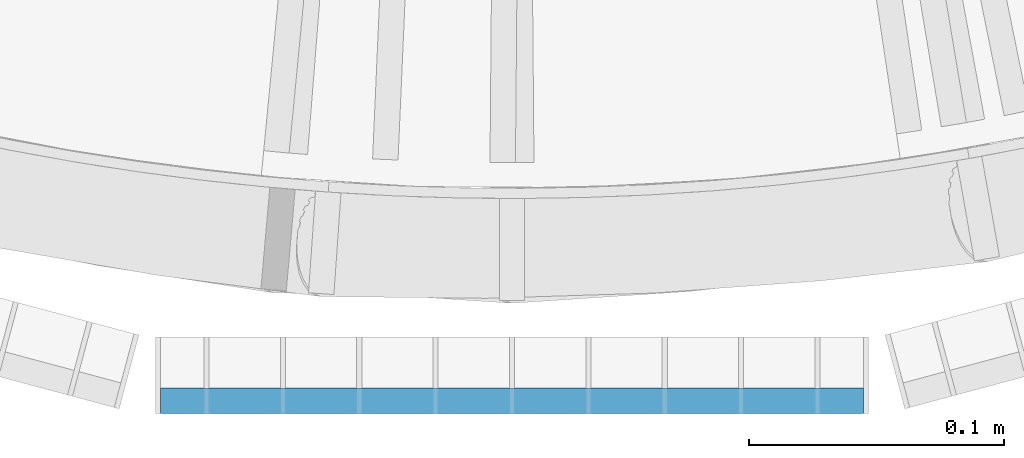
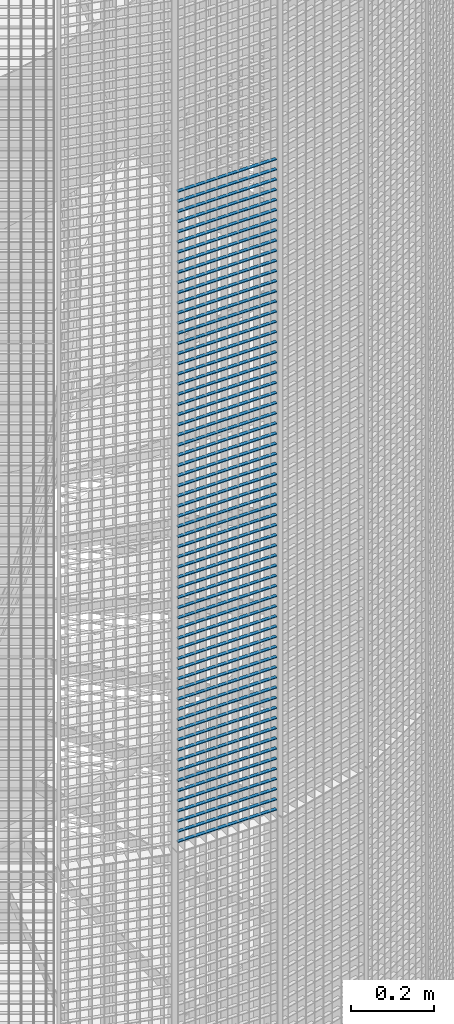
# One storey, part 157 of 1183: 65 beams, 1 element without a shape of its own.
"""IFC2X3 building model written with IfcOpenShell, lengths in millimetres."""

from ifc_helpers import new_model, si_unit, frame, origin_with_axes, origin_2d_with_axis, place, context, subcontext, project, spatial, rectangle, extrude, material, type_object, element, aggregate, save


model = new_model("IFC2X3")

# Units and contexts
model_context = context("Model", 3, precision=1e-05, world=origin_with_axes())
body_context = subcontext(model_context, "Body", "Model", "MODEL_VIEW")
ifc_project = project(units=[si_unit("LENGTHUNIT", "METRE", prefix="MILLI"), si_unit("AREAUNIT", "SQUARE_METRE"), si_unit("VOLUMEUNIT", "CUBIC_METRE"), si_unit("MASSUNIT", "GRAM", prefix="KILO"), si_unit("TIMEUNIT", "SECOND"), si_unit("PLANEANGLEUNIT", "RADIAN"), si_unit("SOLIDANGLEUNIT", "STERADIAN"), si_unit("THERMODYNAMICTEMPERATUREUNIT", "DEGREE_CELSIUS"), si_unit("LUMINOUSINTENSITYUNIT", "LUMEN")], contexts=[model_context])

# Site, building, storey
site_placement = place(None, origin_with_axes())
site = spatial("IfcSite", under=ifc_project, at=site_placement, Name="Undefined", CompositionType="ELEMENT")
building_placement = place(site_placement, origin_with_axes())
building = spatial("IfcBuilding", under=site, at=building_placement, Name="Undefined", CompositionType="ELEMENT")
storey_placement = place(building_placement, origin_with_axes())
storey = spatial("IfcBuildingStorey", under=building, at=storey_placement, Name="Undefined", CompositionType="ELEMENT", Elevation=0.0)

# Assembly, beams
assembly_placement = place(storey_placement, origin_with_axes())
assembly = element("IfcElementAssembly", 1, at=assembly_placement, inside=storey, Name="BORDURE", AssemblyPlace="NOTDEFINED", PredefinedType="NOTDEFINED")
ifc_material = material(Name="STEEL/S235JR")
beam_type = type_object("IfcBeamType", Name="PL2*10", PredefinedType="NOTDEFINED")
beam_1_placement = place(assembly_placement, frame((-137.996003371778, -1113.47999999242, 7950.0), z_axis=(0.0, -1.0, 0.0), x_axis=(1.0, 0.0, 0.0)))
beam_1 = element("IfcBeam", 2, at=beam_1_placement, type_object=beam_type, material=ifc_material, Name="ENTRETOISE", context=body_context, shape_type="SweptSolid", body=[
    extrude(rectangle(XDim=2.0, YDim=10.0, at=origin_2d_with_axis()), frame((275.999999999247, 9.09494701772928e-13, 1.53210777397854e-14), z_axis=(-1.0, 0.0, 0.0), x_axis=(0.0, -1.0, 0.0)), (0.0, 0.0, 1.0), 276.0),
])
beam_2_placement = place(assembly_placement, frame((-137.996003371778, -1113.47999999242, 7920.0), z_axis=(0.0, -1.0, 0.0), x_axis=(1.0, 0.0, 0.0)))
beam_2 = element("IfcBeam", 3, at=beam_2_placement, type_object=beam_type, material=ifc_material, Name="ENTRETOISE", context=body_context, shape_type="SweptSolid", body=[
    extrude(rectangle(XDim=2.0, YDim=10.0, at=origin_2d_with_axis()), frame((275.999999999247, 9.09494701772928e-13, 1.53210777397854e-14), z_axis=(-1.0, 0.0, 0.0), x_axis=(0.0, -1.0, 0.0)), (0.0, 0.0, 1.0), 276.0),
])
beam_3_placement = place(assembly_placement, frame((-137.996003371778, -1113.47999999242, 7890.0), z_axis=(0.0, -1.0, 0.0), x_axis=(1.0, 0.0, 0.0)))
beam_3 = element("IfcBeam", 4, at=beam_3_placement, type_object=beam_type, material=ifc_material, Name="ENTRETOISE", context=body_context, shape_type="SweptSolid", body=[
    extrude(rectangle(XDim=2.0, YDim=10.0, at=origin_2d_with_axis()), frame((275.999999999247, 9.09494701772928e-13, 1.53210777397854e-14), z_axis=(-1.0, 0.0, 0.0), x_axis=(0.0, -1.0, 0.0)), (0.0, 0.0, 1.0), 276.0),
])
beam_4_placement = place(assembly_placement, frame((-137.996003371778, -1113.47999999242, 7860.0), z_axis=(0.0, -1.0, 0.0), x_axis=(1.0, 0.0, 0.0)))
beam_4 = element("IfcBeam", 5, at=beam_4_placement, type_object=beam_type, material=ifc_material, Name="ENTRETOISE", context=body_context, shape_type="SweptSolid", body=[
    extrude(rectangle(XDim=2.0, YDim=10.0, at=origin_2d_with_axis()), frame((275.999999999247, 9.09494701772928e-13, 1.53210777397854e-14), z_axis=(-1.0, 0.0, 0.0), x_axis=(0.0, -1.0, 0.0)), (0.0, 0.0, 1.0), 276.0),
])
beam_5_placement = place(assembly_placement, frame((-137.996003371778, -1113.47999999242, 7830.0), z_axis=(0.0, -1.0, 0.0), x_axis=(1.0, 0.0, 0.0)))
beam_5 = element("IfcBeam", 6, at=beam_5_placement, type_object=beam_type, material=ifc_material, Name="ENTRETOISE", context=body_context, shape_type="SweptSolid", body=[
    extrude(rectangle(XDim=2.0, YDim=10.0, at=origin_2d_with_axis()), frame((275.999999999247, 9.09494701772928e-13, 1.53210777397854e-14), z_axis=(-1.0, 0.0, 0.0), x_axis=(0.0, -1.0, 0.0)), (0.0, 0.0, 1.0), 276.0),
])
beam_6_placement = place(assembly_placement, frame((-137.996003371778, -1113.47999999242, 7800.0), z_axis=(0.0, -1.0, 0.0), x_axis=(1.0, 0.0, 0.0)))
beam_6 = element("IfcBeam", 7, at=beam_6_placement, type_object=beam_type, material=ifc_material, Name="ENTRETOISE", context=body_context, shape_type="SweptSolid", body=[
    extrude(rectangle(XDim=2.0, YDim=10.0, at=origin_2d_with_axis()), frame((275.999999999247, 9.09494701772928e-13, 1.53210777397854e-14), z_axis=(-1.0, 0.0, 0.0), x_axis=(0.0, -1.0, 0.0)), (0.0, 0.0, 1.0), 276.0),
])
beam_7_placement = place(assembly_placement, frame((-137.996003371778, -1113.47999999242, 7770.0), z_axis=(0.0, -1.0, 0.0), x_axis=(1.0, 0.0, 0.0)))
beam_7 = element("IfcBeam", 8, at=beam_7_placement, type_object=beam_type, material=ifc_material, Name="ENTRETOISE", context=body_context, shape_type="SweptSolid", body=[
    extrude(rectangle(XDim=2.0, YDim=10.0, at=origin_2d_with_axis()), frame((275.999999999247, 9.09494701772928e-13, 1.53210777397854e-14), z_axis=(-1.0, 0.0, 0.0), x_axis=(0.0, -1.0, 0.0)), (0.0, 0.0, 1.0), 276.0),
])
beam_8_placement = place(assembly_placement, frame((-137.996003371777, -1113.47999999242, 7740.0), z_axis=(0.0, -1.0, 0.0), x_axis=(1.0, 0.0, 0.0)))
beam_8 = element("IfcBeam", 9, at=beam_8_placement, type_object=beam_type, material=ifc_material, Name="ENTRETOISE", context=body_context, shape_type="SweptSolid", body=[
    extrude(rectangle(XDim=2.0, YDim=10.0, at=origin_2d_with_axis()), frame((275.999999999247, 9.09494701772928e-13, 1.53210777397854e-14), z_axis=(-1.0, 0.0, 0.0), x_axis=(0.0, -1.0, 0.0)), (0.0, 0.0, 1.0), 276.0),
])
beam_9_placement = place(assembly_placement, frame((-137.996003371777, -1113.47999999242, 7710.0), z_axis=(0.0, -1.0, 0.0), x_axis=(1.0, 0.0, 0.0)))
beam_9 = element("IfcBeam", 10, at=beam_9_placement, type_object=beam_type, material=ifc_material, Name="ENTRETOISE", context=body_context, shape_type="SweptSolid", body=[
    extrude(rectangle(XDim=2.0, YDim=10.0, at=origin_2d_with_axis()), frame((275.999999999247, 9.09494701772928e-13, 1.53210777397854e-14), z_axis=(-1.0, 0.0, 0.0), x_axis=(0.0, -1.0, 0.0)), (0.0, 0.0, 1.0), 276.0),
])
beam_10_placement = place(assembly_placement, frame((-137.996003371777, -1113.47999999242, 7680.0), z_axis=(0.0, -1.0, 0.0), x_axis=(1.0, 0.0, 0.0)))
beam_10 = element("IfcBeam", 11, at=beam_10_placement, type_object=beam_type, material=ifc_material, Name="ENTRETOISE", context=body_context, shape_type="SweptSolid", body=[
    extrude(rectangle(XDim=2.0, YDim=10.0, at=origin_2d_with_axis()), frame((275.999999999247, 9.09494701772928e-13, 1.53210777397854e-14), z_axis=(-1.0, 0.0, 0.0), x_axis=(0.0, -1.0, 0.0)), (0.0, 0.0, 1.0), 276.0),
])
beam_11_placement = place(assembly_placement, frame((-137.996003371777, -1113.47999999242, 7650.0), z_axis=(0.0, -1.0, 0.0), x_axis=(1.0, 0.0, 0.0)))
beam_11 = element("IfcBeam", 12, at=beam_11_placement, type_object=beam_type, material=ifc_material, Name="ENTRETOISE", context=body_context, shape_type="SweptSolid", body=[
    extrude(rectangle(XDim=2.0, YDim=10.0, at=origin_2d_with_axis()), frame((275.999999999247, 9.09494701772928e-13, 1.53210777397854e-14), z_axis=(-1.0, 0.0, 0.0), x_axis=(0.0, -1.0, 0.0)), (0.0, 0.0, 1.0), 276.0),
])
beam_12_placement = place(assembly_placement, frame((-137.996003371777, -1113.47999999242, 7620.0), z_axis=(0.0, -1.0, 0.0), x_axis=(1.0, 0.0, 0.0)))
beam_12 = element("IfcBeam", 13, at=beam_12_placement, type_object=beam_type, material=ifc_material, Name="ENTRETOISE", context=body_context, shape_type="SweptSolid", body=[
    extrude(rectangle(XDim=2.0, YDim=10.0, at=origin_2d_with_axis()), frame((275.999999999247, 9.09494701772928e-13, 1.53210777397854e-14), z_axis=(-1.0, 0.0, 0.0), x_axis=(0.0, -1.0, 0.0)), (0.0, 0.0, 1.0), 276.0),
])
beam_13_placement = place(assembly_placement, frame((-137.996003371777, -1113.47999999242, 7590.0), z_axis=(0.0, -1.0, 0.0), x_axis=(1.0, 0.0, 0.0)))
beam_13 = element("IfcBeam", 14, at=beam_13_placement, type_object=beam_type, material=ifc_material, Name="ENTRETOISE", context=body_context, shape_type="SweptSolid", body=[
    extrude(rectangle(XDim=2.0, YDim=10.0, at=origin_2d_with_axis()), frame((275.999999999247, 9.09494701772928e-13, 1.53210777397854e-14), z_axis=(-1.0, 0.0, 0.0), x_axis=(0.0, -1.0, 0.0)), (0.0, 0.0, 1.0), 276.0),
])
beam_14_placement = place(assembly_placement, frame((-137.996003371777, -1113.47999999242, 7560.0), z_axis=(0.0, -1.0, 0.0), x_axis=(1.0, 0.0, 0.0)))
beam_14 = element("IfcBeam", 15, at=beam_14_placement, type_object=beam_type, material=ifc_material, Name="ENTRETOISE", context=body_context, shape_type="SweptSolid", body=[
    extrude(rectangle(XDim=2.0, YDim=10.0, at=origin_2d_with_axis()), frame((275.999999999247, 9.09494701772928e-13, 1.53210777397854e-14), z_axis=(-1.0, 0.0, 0.0), x_axis=(0.0, -1.0, 0.0)), (0.0, 0.0, 1.0), 276.0),
])
beam_15_placement = place(assembly_placement, frame((-137.996003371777, -1113.47999999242, 7530.0), z_axis=(0.0, -1.0, 0.0), x_axis=(1.0, 0.0, 0.0)))
beam_15 = element("IfcBeam", 16, at=beam_15_placement, type_object=beam_type, material=ifc_material, Name="ENTRETOISE", context=body_context, shape_type="SweptSolid", body=[
    extrude(rectangle(XDim=2.0, YDim=10.0, at=origin_2d_with_axis()), frame((275.999999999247, 9.09494701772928e-13, 1.53210777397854e-14), z_axis=(-1.0, 0.0, 0.0), x_axis=(0.0, -1.0, 0.0)), (0.0, 0.0, 1.0), 276.0),
])
beam_16_placement = place(assembly_placement, frame((-137.996003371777, -1113.47999999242, 7500.0), z_axis=(0.0, -1.0, 0.0), x_axis=(1.0, 0.0, 0.0)))
beam_16 = element("IfcBeam", 17, at=beam_16_placement, type_object=beam_type, material=ifc_material, Name="ENTRETOISE", context=body_context, shape_type="SweptSolid", body=[
    extrude(rectangle(XDim=2.0, YDim=10.0, at=origin_2d_with_axis()), frame((275.999999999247, 9.09494701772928e-13, 1.53210777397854e-14), z_axis=(-1.0, 0.0, 0.0), x_axis=(0.0, -1.0, 0.0)), (0.0, 0.0, 1.0), 276.0),
])
beam_17_placement = place(assembly_placement, frame((-137.996003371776, -1113.47999999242, 7470.0), z_axis=(0.0, -1.0, 0.0), x_axis=(1.0, 0.0, 0.0)))
beam_17 = element("IfcBeam", 18, at=beam_17_placement, type_object=beam_type, material=ifc_material, Name="ENTRETOISE", context=body_context, shape_type="SweptSolid", body=[
    extrude(rectangle(XDim=2.0, YDim=10.0, at=origin_2d_with_axis()), frame((275.999999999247, 9.09494701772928e-13, 1.53210777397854e-14), z_axis=(-1.0, 0.0, 0.0), x_axis=(0.0, -1.0, 0.0)), (0.0, 0.0, 1.0), 276.0),
])
beam_18_placement = place(assembly_placement, frame((-137.996003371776, -1113.47999999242, 7440.0), z_axis=(0.0, -1.0, 0.0), x_axis=(1.0, 0.0, 0.0)))
beam_18 = element("IfcBeam", 19, at=beam_18_placement, type_object=beam_type, material=ifc_material, Name="ENTRETOISE", context=body_context, shape_type="SweptSolid", body=[
    extrude(rectangle(XDim=2.0, YDim=10.0, at=origin_2d_with_axis()), frame((275.999999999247, 9.09494701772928e-13, 1.53210777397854e-14), z_axis=(-1.0, 0.0, 0.0), x_axis=(0.0, -1.0, 0.0)), (0.0, 0.0, 1.0), 276.0),
])
beam_19_placement = place(assembly_placement, frame((-137.996003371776, -1113.47999999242, 7410.0), z_axis=(0.0, -1.0, 0.0), x_axis=(1.0, 0.0, 0.0)))
beam_19 = element("IfcBeam", 20, at=beam_19_placement, type_object=beam_type, material=ifc_material, Name="ENTRETOISE", context=body_context, shape_type="SweptSolid", body=[
    extrude(rectangle(XDim=2.0, YDim=10.0, at=origin_2d_with_axis()), frame((275.999999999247, 9.09494701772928e-13, 1.53210777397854e-14), z_axis=(-1.0, 0.0, 0.0), x_axis=(0.0, -1.0, 0.0)), (0.0, 0.0, 1.0), 276.0),
])
beam_20_placement = place(assembly_placement, frame((-137.996003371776, -1113.47999999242, 7380.0), z_axis=(0.0, -1.0, 0.0), x_axis=(1.0, 0.0, 0.0)))
beam_20 = element("IfcBeam", 21, at=beam_20_placement, type_object=beam_type, material=ifc_material, Name="ENTRETOISE", context=body_context, shape_type="SweptSolid", body=[
    extrude(rectangle(XDim=2.0, YDim=10.0, at=origin_2d_with_axis()), frame((275.999999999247, 9.09494701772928e-13, 1.53210777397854e-14), z_axis=(-1.0, 0.0, 0.0), x_axis=(0.0, -1.0, 0.0)), (0.0, 0.0, 1.0), 276.0),
])
beam_21_placement = place(assembly_placement, frame((-137.996003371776, -1113.47999999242, 7350.0), z_axis=(0.0, -1.0, 0.0), x_axis=(1.0, 0.0, 0.0)))
beam_21 = element("IfcBeam", 22, at=beam_21_placement, type_object=beam_type, material=ifc_material, Name="ENTRETOISE", context=body_context, shape_type="SweptSolid", body=[
    extrude(rectangle(XDim=2.0, YDim=10.0, at=origin_2d_with_axis()), frame((275.999999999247, 9.09494701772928e-13, 1.53210777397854e-14), z_axis=(-1.0, 0.0, 0.0), x_axis=(0.0, -1.0, 0.0)), (0.0, 0.0, 1.0), 276.0),
])
beam_22_placement = place(assembly_placement, frame((-137.996003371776, -1113.47999999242, 7320.0), z_axis=(0.0, -1.0, 0.0), x_axis=(1.0, 0.0, 0.0)))
beam_22 = element("IfcBeam", 23, at=beam_22_placement, type_object=beam_type, material=ifc_material, Name="ENTRETOISE", context=body_context, shape_type="SweptSolid", body=[
    extrude(rectangle(XDim=2.0, YDim=10.0, at=origin_2d_with_axis()), frame((275.999999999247, 9.09494701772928e-13, 1.53210777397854e-14), z_axis=(-1.0, 0.0, 0.0), x_axis=(0.0, -1.0, 0.0)), (0.0, 0.0, 1.0), 276.0),
])
beam_23_placement = place(assembly_placement, frame((-137.996003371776, -1113.47999999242, 7290.0), z_axis=(0.0, -1.0, 0.0), x_axis=(1.0, 0.0, 0.0)))
beam_23 = element("IfcBeam", 24, at=beam_23_placement, type_object=beam_type, material=ifc_material, Name="ENTRETOISE", context=body_context, shape_type="SweptSolid", body=[
    extrude(rectangle(XDim=2.0, YDim=10.0, at=origin_2d_with_axis()), frame((275.999999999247, 9.09494701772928e-13, 1.53210777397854e-14), z_axis=(-1.0, 0.0, 0.0), x_axis=(0.0, -1.0, 0.0)), (0.0, 0.0, 1.0), 276.0),
])
beam_24_placement = place(assembly_placement, frame((-137.996003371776, -1113.47999999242, 7260.0), z_axis=(0.0, -1.0, 0.0), x_axis=(1.0, 0.0, 0.0)))
beam_24 = element("IfcBeam", 25, at=beam_24_placement, type_object=beam_type, material=ifc_material, Name="ENTRETOISE", context=body_context, shape_type="SweptSolid", body=[
    extrude(rectangle(XDim=2.0, YDim=10.0, at=origin_2d_with_axis()), frame((275.999999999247, 9.09494701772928e-13, 1.53210777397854e-14), z_axis=(-1.0, 0.0, 0.0), x_axis=(0.0, -1.0, 0.0)), (0.0, 0.0, 1.0), 276.0),
])
beam_25_placement = place(assembly_placement, frame((-137.996003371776, -1113.47999999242, 7230.0), z_axis=(0.0, -1.0, 0.0), x_axis=(1.0, 0.0, 0.0)))
beam_25 = element("IfcBeam", 26, at=beam_25_placement, type_object=beam_type, material=ifc_material, Name="ENTRETOISE", context=body_context, shape_type="SweptSolid", body=[
    extrude(rectangle(XDim=2.0, YDim=10.0, at=origin_2d_with_axis()), frame((275.999999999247, 9.09494701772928e-13, 1.53210777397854e-14), z_axis=(-1.0, 0.0, 0.0), x_axis=(0.0, -1.0, 0.0)), (0.0, 0.0, 1.0), 276.0),
])
beam_26_placement = place(assembly_placement, frame((-137.996003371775, -1113.47999999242, 7200.0), z_axis=(0.0, -1.0, 0.0), x_axis=(1.0, 0.0, 0.0)))
beam_26 = element("IfcBeam", 27, at=beam_26_placement, type_object=beam_type, material=ifc_material, Name="ENTRETOISE", context=body_context, shape_type="SweptSolid", body=[
    extrude(rectangle(XDim=2.0, YDim=10.0, at=origin_2d_with_axis()), frame((275.999999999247, 9.09494701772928e-13, 1.53210777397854e-14), z_axis=(-1.0, 0.0, 0.0), x_axis=(0.0, -1.0, 0.0)), (0.0, 0.0, 1.0), 276.0),
])
beam_27_placement = place(assembly_placement, frame((-137.996003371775, -1113.47999999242, 7170.0), z_axis=(0.0, -1.0, 0.0), x_axis=(1.0, 0.0, 0.0)))
beam_27 = element("IfcBeam", 28, at=beam_27_placement, type_object=beam_type, material=ifc_material, Name="ENTRETOISE", context=body_context, shape_type="SweptSolid", body=[
    extrude(rectangle(XDim=2.0, YDim=10.0, at=origin_2d_with_axis()), frame((275.999999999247, 9.09494701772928e-13, 1.53210777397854e-14), z_axis=(-1.0, 0.0, 0.0), x_axis=(0.0, -1.0, 0.0)), (0.0, 0.0, 1.0), 276.0),
])
beam_28_placement = place(assembly_placement, frame((-137.996003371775, -1113.47999999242, 7140.0), z_axis=(0.0, -1.0, 0.0), x_axis=(1.0, 0.0, 0.0)))
beam_28 = element("IfcBeam", 29, at=beam_28_placement, type_object=beam_type, material=ifc_material, Name="ENTRETOISE", context=body_context, shape_type="SweptSolid", body=[
    extrude(rectangle(XDim=2.0, YDim=10.0, at=origin_2d_with_axis()), frame((275.999999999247, 9.09494701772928e-13, 1.53210777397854e-14), z_axis=(-1.0, 0.0, 0.0), x_axis=(0.0, -1.0, 0.0)), (0.0, 0.0, 1.0), 276.0),
])
beam_29_placement = place(assembly_placement, frame((-137.996003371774, -1113.47999999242, 6720.0), z_axis=(0.0, -1.0, 0.0), x_axis=(1.0, 0.0, 0.0)))
beam_29 = element("IfcBeam", 30, at=beam_29_placement, type_object=beam_type, material=ifc_material, Name="ENTRETOISE", context=body_context, shape_type="SweptSolid", body=[
    extrude(rectangle(XDim=2.0, YDim=10.0, at=origin_2d_with_axis()), frame((275.999999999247, 9.09494701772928e-13, 1.53210777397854e-14), z_axis=(-1.0, 0.0, 0.0), x_axis=(0.0, -1.0, 0.0)), (0.0, 0.0, 1.0), 276.0),
])
beam_30_placement = place(assembly_placement, frame((-137.996003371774, -1113.47999999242, 6690.0), z_axis=(0.0, -1.0, 0.0), x_axis=(1.0, 0.0, 0.0)))
beam_30 = element("IfcBeam", 31, at=beam_30_placement, type_object=beam_type, material=ifc_material, Name="ENTRETOISE", context=body_context, shape_type="SweptSolid", body=[
    extrude(rectangle(XDim=2.0, YDim=10.0, at=origin_2d_with_axis()), frame((275.999999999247, 9.09494701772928e-13, 1.53210777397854e-14), z_axis=(-1.0, 0.0, 0.0), x_axis=(0.0, -1.0, 0.0)), (0.0, 0.0, 1.0), 276.0),
])
beam_31_placement = place(assembly_placement, frame((-137.996003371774, -1113.47999999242, 6750.0), z_axis=(0.0, -1.0, 0.0), x_axis=(1.0, 0.0, 0.0)))
beam_31 = element("IfcBeam", 32, at=beam_31_placement, type_object=beam_type, material=ifc_material, Name="ENTRETOISE", context=body_context, shape_type="SweptSolid", body=[
    extrude(rectangle(XDim=2.0, YDim=10.0, at=origin_2d_with_axis()), frame((275.999999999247, 9.09494701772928e-13, 1.53210777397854e-14), z_axis=(-1.0, 0.0, 0.0), x_axis=(0.0, -1.0, 0.0)), (0.0, 0.0, 1.0), 276.0),
])
beam_32_placement = place(assembly_placement, frame((-137.996003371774, -1113.47999999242, 6660.0), z_axis=(0.0, -1.0, 0.0), x_axis=(1.0, 0.0, 0.0)))
beam_32 = element("IfcBeam", 33, at=beam_32_placement, type_object=beam_type, material=ifc_material, Name="ENTRETOISE", context=body_context, shape_type="SweptSolid", body=[
    extrude(rectangle(XDim=2.0, YDim=10.0, at=origin_2d_with_axis()), frame((275.999999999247, 9.09494701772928e-13, 1.53210777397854e-14), z_axis=(-1.0, 0.0, 0.0), x_axis=(0.0, -1.0, 0.0)), (0.0, 0.0, 1.0), 276.0),
])
beam_33_placement = place(assembly_placement, frame((-137.996003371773, -1113.47999999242, 6630.0), z_axis=(0.0, -1.0, 0.0), x_axis=(1.0, 0.0, 0.0)))
beam_33 = element("IfcBeam", 34, at=beam_33_placement, type_object=beam_type, material=ifc_material, Name="ENTRETOISE", context=body_context, shape_type="SweptSolid", body=[
    extrude(rectangle(XDim=2.0, YDim=10.0, at=origin_2d_with_axis()), frame((275.999999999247, 9.09494701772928e-13, 1.53210777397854e-14), z_axis=(-1.0, 0.0, 0.0), x_axis=(0.0, -1.0, 0.0)), (0.0, 0.0, 1.0), 276.0),
])
beam_34_placement = place(assembly_placement, frame((-137.996003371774, -1113.47999999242, 6780.0), z_axis=(0.0, -1.0, 0.0), x_axis=(1.0, 0.0, 0.0)))
beam_34 = element("IfcBeam", 35, at=beam_34_placement, type_object=beam_type, material=ifc_material, Name="ENTRETOISE", context=body_context, shape_type="SweptSolid", body=[
    extrude(rectangle(XDim=2.0, YDim=10.0, at=origin_2d_with_axis()), frame((275.999999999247, 9.09494701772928e-13, 1.53210777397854e-14), z_axis=(-1.0, 0.0, 0.0), x_axis=(0.0, -1.0, 0.0)), (0.0, 0.0, 1.0), 276.0),
])
beam_35_placement = place(assembly_placement, frame((-137.996003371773, -1113.47999999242, 6600.0), z_axis=(0.0, -1.0, 0.0), x_axis=(1.0, 0.0, 0.0)))
beam_35 = element("IfcBeam", 36, at=beam_35_placement, type_object=beam_type, material=ifc_material, Name="ENTRETOISE", context=body_context, shape_type="SweptSolid", body=[
    extrude(rectangle(XDim=2.0, YDim=10.0, at=origin_2d_with_axis()), frame((275.999999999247, 9.09494701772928e-13, 1.53210777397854e-14), z_axis=(-1.0, 0.0, 0.0), x_axis=(0.0, -1.0, 0.0)), (0.0, 0.0, 1.0), 276.0),
])
beam_36_placement = place(assembly_placement, frame((-137.996003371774, -1113.47999999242, 6810.0), z_axis=(0.0, -1.0, 0.0), x_axis=(1.0, 0.0, 0.0)))
beam_36 = element("IfcBeam", 37, at=beam_36_placement, type_object=beam_type, material=ifc_material, Name="ENTRETOISE", context=body_context, shape_type="SweptSolid", body=[
    extrude(rectangle(XDim=2.0, YDim=10.0, at=origin_2d_with_axis()), frame((275.999999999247, 9.09494701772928e-13, 1.53210777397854e-14), z_axis=(-1.0, 0.0, 0.0), x_axis=(0.0, -1.0, 0.0)), (0.0, 0.0, 1.0), 276.0),
])
beam_37_placement = place(assembly_placement, frame((-137.996003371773, -1113.47999999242, 6570.0), z_axis=(0.0, -1.0, 0.0), x_axis=(1.0, 0.0, 0.0)))
beam_37 = element("IfcBeam", 38, at=beam_37_placement, type_object=beam_type, material=ifc_material, Name="ENTRETOISE", context=body_context, shape_type="SweptSolid", body=[
    extrude(rectangle(XDim=2.0, YDim=10.0, at=origin_2d_with_axis()), frame((275.999999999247, 9.09494701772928e-13, 1.53210777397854e-14), z_axis=(-1.0, 0.0, 0.0), x_axis=(0.0, -1.0, 0.0)), (0.0, 0.0, 1.0), 276.0),
])
beam_38_placement = place(assembly_placement, frame((-137.996003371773, -1113.47999999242, 6540.0), z_axis=(0.0, -1.0, 0.0), x_axis=(1.0, 0.0, 0.0)))
beam_38 = element("IfcBeam", 39, at=beam_38_placement, type_object=beam_type, material=ifc_material, Name="ENTRETOISE", context=body_context, shape_type="SweptSolid", body=[
    extrude(rectangle(XDim=2.0, YDim=10.0, at=origin_2d_with_axis()), frame((275.999999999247, 9.09494701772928e-13, 1.53210777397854e-14), z_axis=(-1.0, 0.0, 0.0), x_axis=(0.0, -1.0, 0.0)), (0.0, 0.0, 1.0), 276.0),
])
beam_39_placement = place(assembly_placement, frame((-137.996003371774, -1113.47999999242, 6840.0), z_axis=(0.0, -1.0, 0.0), x_axis=(1.0, 0.0, 0.0)))
beam_39 = element("IfcBeam", 40, at=beam_39_placement, type_object=beam_type, material=ifc_material, Name="ENTRETOISE", context=body_context, shape_type="SweptSolid", body=[
    extrude(rectangle(XDim=2.0, YDim=10.0, at=origin_2d_with_axis()), frame((275.999999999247, 9.09494701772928e-13, 1.53210777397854e-14), z_axis=(-1.0, 0.0, 0.0), x_axis=(0.0, -1.0, 0.0)), (0.0, 0.0, 1.0), 276.0),
])
beam_40_placement = place(assembly_placement, frame((-137.996003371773, -1113.47999999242, 6510.0), z_axis=(0.0, -1.0, 0.0), x_axis=(1.0, 0.0, 0.0)))
beam_40 = element("IfcBeam", 41, at=beam_40_placement, type_object=beam_type, material=ifc_material, Name="ENTRETOISE", context=body_context, shape_type="SweptSolid", body=[
    extrude(rectangle(XDim=2.0, YDim=10.0, at=origin_2d_with_axis()), frame((275.999999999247, 9.09494701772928e-13, 1.53210777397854e-14), z_axis=(-1.0, 0.0, 0.0), x_axis=(0.0, -1.0, 0.0)), (0.0, 0.0, 1.0), 276.0),
])
beam_41_placement = place(assembly_placement, frame((-137.996003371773, -1113.47999999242, 6480.0), z_axis=(0.0, -1.0, 0.0), x_axis=(1.0, 0.0, 0.0)))
beam_41 = element("IfcBeam", 42, at=beam_41_placement, type_object=beam_type, material=ifc_material, Name="ENTRETOISE", context=body_context, shape_type="SweptSolid", body=[
    extrude(rectangle(XDim=2.0, YDim=10.0, at=origin_2d_with_axis()), frame((275.999999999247, 9.09494701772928e-13, 1.53210777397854e-14), z_axis=(-1.0, 0.0, 0.0), x_axis=(0.0, -1.0, 0.0)), (0.0, 0.0, 1.0), 276.0),
])
beam_42_placement = place(assembly_placement, frame((-137.996003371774, -1113.47999999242, 6870.0), z_axis=(0.0, -1.0, 0.0), x_axis=(1.0, 0.0, 0.0)))
beam_42 = element("IfcBeam", 43, at=beam_42_placement, type_object=beam_type, material=ifc_material, Name="ENTRETOISE", context=body_context, shape_type="SweptSolid", body=[
    extrude(rectangle(XDim=2.0, YDim=10.0, at=origin_2d_with_axis()), frame((275.999999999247, 9.09494701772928e-13, 1.53210777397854e-14), z_axis=(-1.0, 0.0, 0.0), x_axis=(0.0, -1.0, 0.0)), (0.0, 0.0, 1.0), 276.0),
])
beam_43_placement = place(assembly_placement, frame((-137.996003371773, -1113.47999999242, 6450.0), z_axis=(0.0, -1.0, 0.0), x_axis=(1.0, 0.0, 0.0)))
beam_43 = element("IfcBeam", 44, at=beam_43_placement, type_object=beam_type, material=ifc_material, Name="ENTRETOISE", context=body_context, shape_type="SweptSolid", body=[
    extrude(rectangle(XDim=2.0, YDim=10.0, at=origin_2d_with_axis()), frame((275.999999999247, 9.09494701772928e-13, 1.53210777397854e-14), z_axis=(-1.0, 0.0, 0.0), x_axis=(0.0, -1.0, 0.0)), (0.0, 0.0, 1.0), 276.0),
])
beam_44_placement = place(assembly_placement, frame((-137.996003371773, -1113.47999999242, 6420.0), z_axis=(0.0, -1.0, 0.0), x_axis=(1.0, 0.0, 0.0)))
beam_44 = element("IfcBeam", 45, at=beam_44_placement, type_object=beam_type, material=ifc_material, Name="ENTRETOISE", context=body_context, shape_type="SweptSolid", body=[
    extrude(rectangle(XDim=2.0, YDim=10.0, at=origin_2d_with_axis()), frame((275.999999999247, 9.09494701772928e-13, 1.53210777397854e-14), z_axis=(-1.0, 0.0, 0.0), x_axis=(0.0, -1.0, 0.0)), (0.0, 0.0, 1.0), 276.0),
])
beam_45_placement = place(assembly_placement, frame((-137.996003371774, -1113.47999999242, 6900.0), z_axis=(0.0, -1.0, 0.0), x_axis=(1.0, 0.0, 0.0)))
beam_45 = element("IfcBeam", 46, at=beam_45_placement, type_object=beam_type, material=ifc_material, Name="ENTRETOISE", context=body_context, shape_type="SweptSolid", body=[
    extrude(rectangle(XDim=2.0, YDim=10.0, at=origin_2d_with_axis()), frame((275.999999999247, 9.09494701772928e-13, 1.53210777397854e-14), z_axis=(-1.0, 0.0, 0.0), x_axis=(0.0, -1.0, 0.0)), (0.0, 0.0, 1.0), 276.0),
])
beam_46_placement = place(assembly_placement, frame((-137.996003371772, -1113.47999999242, 6390.0), z_axis=(0.0, -1.0, 0.0), x_axis=(1.0, 0.0, 0.0)))
beam_46 = element("IfcBeam", 47, at=beam_46_placement, type_object=beam_type, material=ifc_material, Name="ENTRETOISE", context=body_context, shape_type="SweptSolid", body=[
    extrude(rectangle(XDim=2.0, YDim=10.0, at=origin_2d_with_axis()), frame((275.999999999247, 9.09494701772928e-13, 1.53210777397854e-14), z_axis=(-1.0, 0.0, 0.0), x_axis=(0.0, -1.0, 0.0)), (0.0, 0.0, 1.0), 276.0),
])
beam_47_placement = place(assembly_placement, frame((-137.996003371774, -1113.47999999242, 6930.0), z_axis=(0.0, -1.0, 0.0), x_axis=(1.0, 0.0, 0.0)))
beam_47 = element("IfcBeam", 48, at=beam_47_placement, type_object=beam_type, material=ifc_material, Name="ENTRETOISE", context=body_context, shape_type="SweptSolid", body=[
    extrude(rectangle(XDim=2.0, YDim=10.0, at=origin_2d_with_axis()), frame((275.999999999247, 9.09494701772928e-13, 1.53210777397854e-14), z_axis=(-1.0, 0.0, 0.0), x_axis=(0.0, -1.0, 0.0)), (0.0, 0.0, 1.0), 276.0),
])
beam_48_placement = place(assembly_placement, frame((-137.996003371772, -1113.47999999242, 6360.0), z_axis=(0.0, -1.0, 0.0), x_axis=(1.0, 0.0, 0.0)))
beam_48 = element("IfcBeam", 49, at=beam_48_placement, type_object=beam_type, material=ifc_material, Name="ENTRETOISE", context=body_context, shape_type="SweptSolid", body=[
    extrude(rectangle(XDim=2.0, YDim=10.0, at=origin_2d_with_axis()), frame((275.999999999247, 9.09494701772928e-13, 1.53210777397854e-14), z_axis=(-1.0, 0.0, 0.0), x_axis=(0.0, -1.0, 0.0)), (0.0, 0.0, 1.0), 276.0),
])
beam_49_placement = place(assembly_placement, frame((-137.996003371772, -1113.47999999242, 6330.0), z_axis=(0.0, -1.0, 0.0), x_axis=(1.0, 0.0, 0.0)))
beam_49 = element("IfcBeam", 50, at=beam_49_placement, type_object=beam_type, material=ifc_material, Name="ENTRETOISE", context=body_context, shape_type="SweptSolid", body=[
    extrude(rectangle(XDim=2.0, YDim=10.0, at=origin_2d_with_axis()), frame((275.999999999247, 9.09494701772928e-13, 1.53210777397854e-14), z_axis=(-1.0, 0.0, 0.0), x_axis=(0.0, -1.0, 0.0)), (0.0, 0.0, 1.0), 276.0),
])
beam_50_placement = place(assembly_placement, frame((-137.996003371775, -1113.47999999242, 6960.0), z_axis=(0.0, -1.0, 0.0), x_axis=(1.0, 0.0, 0.0)))
beam_50 = element("IfcBeam", 51, at=beam_50_placement, type_object=beam_type, material=ifc_material, Name="ENTRETOISE", context=body_context, shape_type="SweptSolid", body=[
    extrude(rectangle(XDim=2.0, YDim=10.0, at=origin_2d_with_axis()), frame((275.999999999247, 9.09494701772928e-13, 1.53210777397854e-14), z_axis=(-1.0, 0.0, 0.0), x_axis=(0.0, -1.0, 0.0)), (0.0, 0.0, 1.0), 276.0),
])
beam_51_placement = place(assembly_placement, frame((-137.996003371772, -1113.47999999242, 6300.0), z_axis=(0.0, -1.0, 0.0), x_axis=(1.0, 0.0, 0.0)))
beam_51 = element("IfcBeam", 52, at=beam_51_placement, type_object=beam_type, material=ifc_material, Name="ENTRETOISE", context=body_context, shape_type="SweptSolid", body=[
    extrude(rectangle(XDim=2.0, YDim=10.0, at=origin_2d_with_axis()), frame((275.999999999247, 9.09494701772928e-13, 1.53210777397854e-14), z_axis=(-1.0, 0.0, 0.0), x_axis=(0.0, -1.0, 0.0)), (0.0, 0.0, 1.0), 276.0),
])
beam_52_placement = place(assembly_placement, frame((-137.996003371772, -1113.47999999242, 6270.0), z_axis=(0.0, -1.0, 0.0), x_axis=(1.0, 0.0, 0.0)))
beam_52 = element("IfcBeam", 53, at=beam_52_placement, type_object=beam_type, material=ifc_material, Name="ENTRETOISE", context=body_context, shape_type="SweptSolid", body=[
    extrude(rectangle(XDim=2.0, YDim=10.0, at=origin_2d_with_axis()), frame((275.999999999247, 9.09494701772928e-13, 1.53210777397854e-14), z_axis=(-1.0, 0.0, 0.0), x_axis=(0.0, -1.0, 0.0)), (0.0, 0.0, 1.0), 276.0),
])
beam_53_placement = place(assembly_placement, frame((-137.996003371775, -1113.47999999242, 6990.0), z_axis=(0.0, -1.0, 0.0), x_axis=(1.0, 0.0, 0.0)))
beam_53 = element("IfcBeam", 54, at=beam_53_placement, type_object=beam_type, material=ifc_material, Name="ENTRETOISE", context=body_context, shape_type="SweptSolid", body=[
    extrude(rectangle(XDim=2.0, YDim=10.0, at=origin_2d_with_axis()), frame((275.999999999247, 9.09494701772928e-13, 1.53210777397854e-14), z_axis=(-1.0, 0.0, 0.0), x_axis=(0.0, -1.0, 0.0)), (0.0, 0.0, 1.0), 276.0),
])
beam_54_placement = place(assembly_placement, frame((-137.996003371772, -1113.47999999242, 6240.0), z_axis=(0.0, -1.0, 0.0), x_axis=(1.0, 0.0, 0.0)))
beam_54 = element("IfcBeam", 55, at=beam_54_placement, type_object=beam_type, material=ifc_material, Name="ENTRETOISE", context=body_context, shape_type="SweptSolid", body=[
    extrude(rectangle(XDim=2.0, YDim=10.0, at=origin_2d_with_axis()), frame((275.999999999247, 9.09494701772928e-13, 1.53210777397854e-14), z_axis=(-1.0, 0.0, 0.0), x_axis=(0.0, -1.0, 0.0)), (0.0, 0.0, 1.0), 276.0),
])
beam_55_placement = place(assembly_placement, frame((-137.996003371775, -1113.47999999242, 7020.0), z_axis=(0.0, -1.0, 0.0), x_axis=(1.0, 0.0, 0.0)))
beam_55 = element("IfcBeam", 56, at=beam_55_placement, type_object=beam_type, material=ifc_material, Name="ENTRETOISE", context=body_context, shape_type="SweptSolid", body=[
    extrude(rectangle(XDim=2.0, YDim=10.0, at=origin_2d_with_axis()), frame((275.999999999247, 9.09494701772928e-13, 1.53210777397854e-14), z_axis=(-1.0, 0.0, 0.0), x_axis=(0.0, -1.0, 0.0)), (0.0, 0.0, 1.0), 276.0),
])
beam_56_placement = place(assembly_placement, frame((-137.996003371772, -1113.47999999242, 6210.0), z_axis=(0.0, -1.0, 0.0), x_axis=(1.0, 0.0, 0.0)))
beam_56 = element("IfcBeam", 57, at=beam_56_placement, type_object=beam_type, material=ifc_material, Name="ENTRETOISE", context=body_context, shape_type="SweptSolid", body=[
    extrude(rectangle(XDim=2.0, YDim=10.0, at=origin_2d_with_axis()), frame((275.999999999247, 9.09494701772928e-13, 1.53210777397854e-14), z_axis=(-1.0, 0.0, 0.0), x_axis=(0.0, -1.0, 0.0)), (0.0, 0.0, 1.0), 276.0),
])
beam_57_placement = place(assembly_placement, frame((-137.996003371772, -1113.47999999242, 6180.0), z_axis=(0.0, -1.0, 0.0), x_axis=(1.0, 0.0, 0.0)))
beam_57 = element("IfcBeam", 58, at=beam_57_placement, type_object=beam_type, material=ifc_material, Name="ENTRETOISE", context=body_context, shape_type="SweptSolid", body=[
    extrude(rectangle(XDim=2.0, YDim=10.0, at=origin_2d_with_axis()), frame((275.999999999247, 9.09494701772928e-13, 1.53210777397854e-14), z_axis=(-1.0, 0.0, 0.0), x_axis=(0.0, -1.0, 0.0)), (0.0, 0.0, 1.0), 276.0),
])
beam_58_placement = place(assembly_placement, frame((-137.996003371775, -1113.47999999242, 7050.0), z_axis=(0.0, -1.0, 0.0), x_axis=(1.0, 0.0, 0.0)))
beam_58 = element("IfcBeam", 59, at=beam_58_placement, type_object=beam_type, material=ifc_material, Name="ENTRETOISE", context=body_context, shape_type="SweptSolid", body=[
    extrude(rectangle(XDim=2.0, YDim=10.0, at=origin_2d_with_axis()), frame((275.999999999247, 9.09494701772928e-13, 1.53210777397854e-14), z_axis=(-1.0, 0.0, 0.0), x_axis=(0.0, -1.0, 0.0)), (0.0, 0.0, 1.0), 276.0),
])
beam_59_placement = place(assembly_placement, frame((-137.996003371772, -1113.47999999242, 6150.0), z_axis=(0.0, -1.0, 0.0), x_axis=(1.0, 0.0, 0.0)))
beam_59 = element("IfcBeam", 60, at=beam_59_placement, type_object=beam_type, material=ifc_material, Name="ENTRETOISE", context=body_context, shape_type="SweptSolid", body=[
    extrude(rectangle(XDim=2.0, YDim=10.0, at=origin_2d_with_axis()), frame((275.999999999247, 9.09494701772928e-13, 1.53210777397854e-14), z_axis=(-1.0, 0.0, 0.0), x_axis=(0.0, -1.0, 0.0)), (0.0, 0.0, 1.0), 276.0),
])
beam_60_placement = place(assembly_placement, frame((-137.996003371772, -1113.47999999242, 6120.0), z_axis=(0.0, -1.0, 0.0), x_axis=(1.0, 0.0, 0.0)))
beam_60 = element("IfcBeam", 61, at=beam_60_placement, type_object=beam_type, material=ifc_material, Name="ENTRETOISE", context=body_context, shape_type="SweptSolid", body=[
    extrude(rectangle(XDim=2.0, YDim=10.0, at=origin_2d_with_axis()), frame((275.999999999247, 9.09494701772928e-13, 1.53210777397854e-14), z_axis=(-1.0, 0.0, 0.0), x_axis=(0.0, -1.0, 0.0)), (0.0, 0.0, 1.0), 276.0),
])
beam_61_placement = place(assembly_placement, frame((-137.996003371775, -1113.47999999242, 7080.0), z_axis=(0.0, -1.0, 0.0), x_axis=(1.0, 0.0, 0.0)))
beam_61 = element("IfcBeam", 62, at=beam_61_placement, type_object=beam_type, material=ifc_material, Name="ENTRETOISE", context=body_context, shape_type="SweptSolid", body=[
    extrude(rectangle(XDim=2.0, YDim=10.0, at=origin_2d_with_axis()), frame((275.999999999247, 9.09494701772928e-13, 1.53210777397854e-14), z_axis=(-1.0, 0.0, 0.0), x_axis=(0.0, -1.0, 0.0)), (0.0, 0.0, 1.0), 276.0),
])
beam_62_placement = place(assembly_placement, frame((-137.996003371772, -1113.47999999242, 6090.0), z_axis=(0.0, -1.0, 0.0), x_axis=(1.0, 0.0, 0.0)))
beam_62 = element("IfcBeam", 63, at=beam_62_placement, type_object=beam_type, material=ifc_material, Name="ENTRETOISE", context=body_context, shape_type="SweptSolid", body=[
    extrude(rectangle(XDim=2.0, YDim=10.0, at=origin_2d_with_axis()), frame((275.999999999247, 9.09494701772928e-13, 1.53210777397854e-14), z_axis=(-1.0, 0.0, 0.0), x_axis=(0.0, -1.0, 0.0)), (0.0, 0.0, 1.0), 276.0),
])
beam_63_placement = place(assembly_placement, frame((-137.996003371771, -1113.47999999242, 6060.0), z_axis=(0.0, -1.0, 0.0), x_axis=(1.0, 0.0, 0.0)))
beam_63 = element("IfcBeam", 64, at=beam_63_placement, type_object=beam_type, material=ifc_material, Name="ENTRETOISE", context=body_context, shape_type="SweptSolid", body=[
    extrude(rectangle(XDim=2.0, YDim=10.0, at=origin_2d_with_axis()), frame((275.999999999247, 9.09494701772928e-13, 1.53210777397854e-14), z_axis=(-1.0, 0.0, 0.0), x_axis=(0.0, -1.0, 0.0)), (0.0, 0.0, 1.0), 276.0),
])
beam_64_placement = place(assembly_placement, frame((-137.996003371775, -1113.47999999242, 7110.0), z_axis=(0.0, -1.0, 0.0), x_axis=(1.0, 0.0, 0.0)))
beam_64 = element("IfcBeam", 65, at=beam_64_placement, type_object=beam_type, material=ifc_material, Name="ENTRETOISE", context=body_context, shape_type="SweptSolid", body=[
    extrude(rectangle(XDim=2.0, YDim=10.0, at=origin_2d_with_axis()), frame((275.999999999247, 9.09494701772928e-13, 1.53210777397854e-14), z_axis=(-1.0, 0.0, 0.0), x_axis=(0.0, -1.0, 0.0)), (0.0, 0.0, 1.0), 276.0),
])
beam_65_placement = place(assembly_placement, frame((-137.99600337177, -1113.47999999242, 6030.0), z_axis=(0.0, -1.0, 0.0), x_axis=(1.0, 0.0, 0.0)))
beam_65 = element("IfcBeam", 66, at=beam_65_placement, type_object=beam_type, material=ifc_material, Name="ENTRETOISE", context=body_context, shape_type="SweptSolid", body=[
    extrude(rectangle(XDim=2.0, YDim=10.0, at=origin_2d_with_axis()), frame((275.999999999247, 9.09494701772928e-13, 1.53210777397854e-14), z_axis=(-1.0, 0.0, 0.0), x_axis=(0.0, -1.0, 0.0)), (0.0, 0.0, 1.0), 276.0),
])
aggregate(assembly, [beam_1, beam_2, beam_3, beam_4, beam_5, beam_6, beam_7, beam_8, beam_9, beam_10, beam_11, beam_12, beam_13, beam_14, beam_15, beam_16, beam_17, beam_18, beam_19, beam_20, beam_21, beam_22, beam_23, beam_24, beam_25, beam_26, beam_27, beam_28, beam_29, beam_30, beam_31, beam_32, beam_33, beam_34, beam_35, beam_36, beam_37, beam_38, beam_39, beam_40, beam_41, beam_42, beam_43, beam_44, beam_45, beam_46, beam_47, beam_48, beam_49, beam_50, beam_51, beam_52, beam_53, beam_54, beam_55, beam_56, beam_57, beam_58, beam_59, beam_60, beam_61, beam_62, beam_63, beam_64, beam_65])

save(model, "model.ifc")
